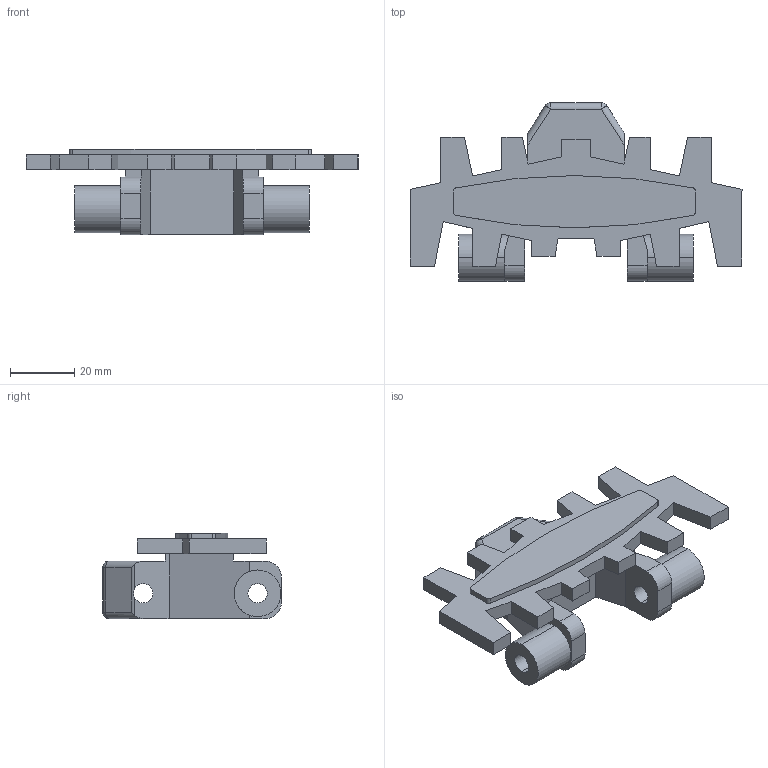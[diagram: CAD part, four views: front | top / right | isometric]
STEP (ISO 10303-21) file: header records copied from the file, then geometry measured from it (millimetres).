
FILE_DESCRIPTION (( 'STEP AP214' ), '1' );
FILE_NAME ('FCFT 5.step', '2017-04-04T13:29:07', ( '' ), ( '' ), 'SwSTEP 2.0', 'SolidWorks 2015', '' );
FILE_SCHEMA (( 'AUTOMOTIVE_DESIGN' ));
Length unit declared in the file: millimetre
Products named in the file (1): FCFT 5
Bounding box: 103 x 55.39 x 26.45 mm (x, y, z)
Volume: 39420.2 mm3; surface area: 15876.5 mm2
Topology: 1 solids, 1 shells, 108 faces, 310 edges, 200 vertices
Faces by surface type: plane 74, cylinder 30, sphere 4
Entity records: 3633 total; most frequent: CARTESIAN_POINT 667, ORIENTED_EDGE 612, DIRECTION 568, EDGE_CURVE 306, LINE 238, VECTOR 238, VERTEX_POINT 200, AXIS2_PLACEMENT_3D 165
